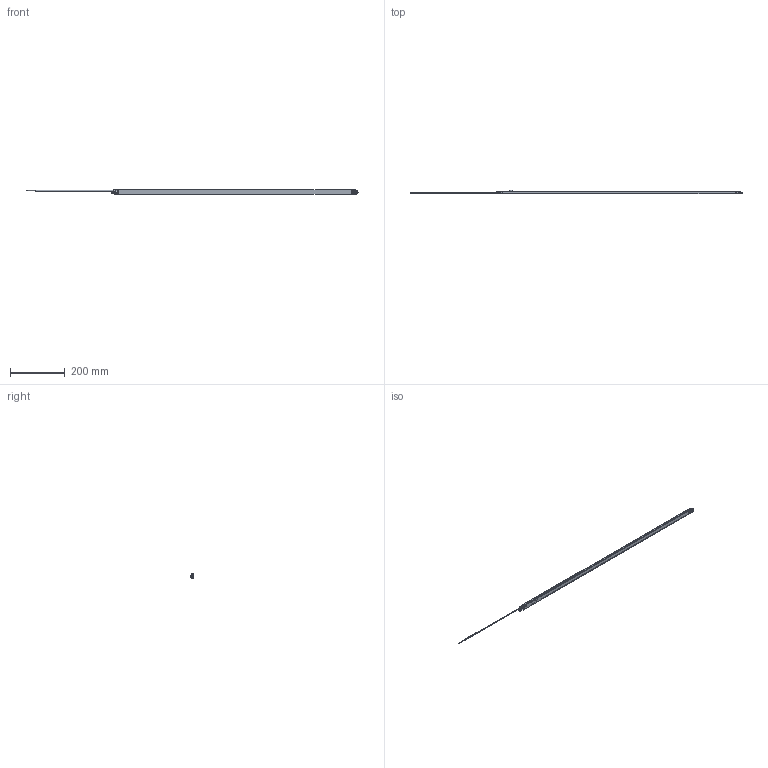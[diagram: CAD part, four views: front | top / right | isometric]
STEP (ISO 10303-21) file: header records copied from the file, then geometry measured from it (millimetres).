
FILE_DESCRIPTION (( 'STEP AP203' ), '1' );
FILE_NAME ('LAP900PIR.STEP', '2021-12-20T08:21:12', ( '' ), ( '' ), 'SwSTEP 2.0', 'SolidWorks 2018', '' );
FILE_SCHEMA (( 'CONFIG_CONTROL_DESIGN' ));
Length unit declared in the file: millimetre
Products named in the file (10): 63202235; 63202233; LAP900PIR; 63202150; 63202151; 63202152; 63202153; 63202157; 63202280_2.9mmX13mm; 63202282
Assembly tree (11 placements, depth 2):
  LAP900PIR
    63202233
    63202150
    63202151
    63202152  x2
    63202153
    63202157
    63202280_2.9mmX13mm  x2
    63202282
    63202235
Bounding box: 1211.41 x 13.7 x 17.84 mm (x, y, z)
Volume: 57841.3 mm3; surface area: 102420.5 mm2
Topology: 19 solids, 19 shells, 623 faces, 1583 edges, 1033 vertices
Faces by surface type: plane 287, cylinder 154, bspline 128, torus 32, cone 16, sphere 6
Entity records: 31617 total; most frequent: CARTESIAN_POINT 17425, ORIENTED_EDGE 2824, DIRECTION 2528, EDGE_CURVE 1412, VERTEX_POINT 925, AXIS2_PLACEMENT_3D 849, VECTOR 830, LINE 830
